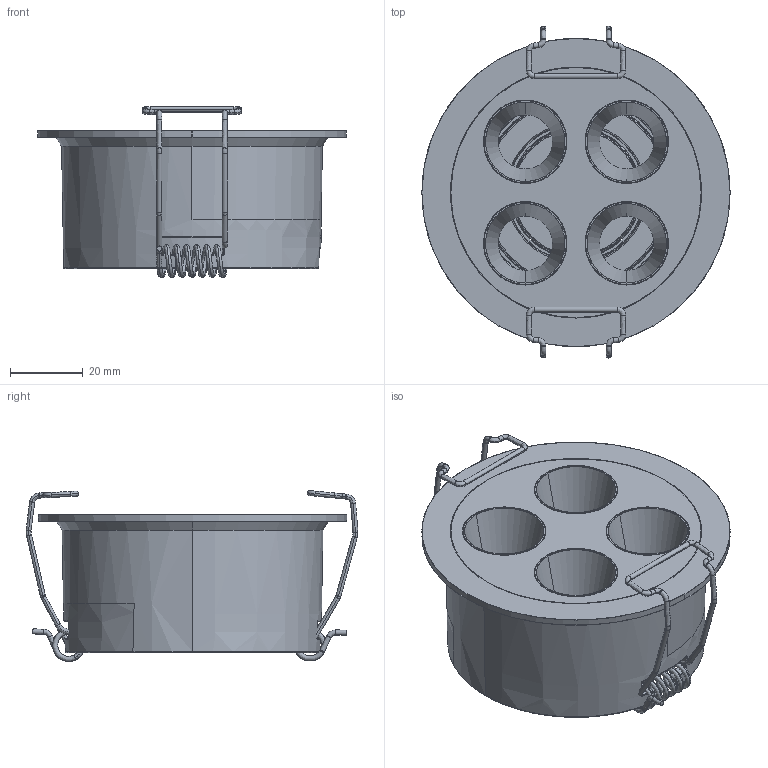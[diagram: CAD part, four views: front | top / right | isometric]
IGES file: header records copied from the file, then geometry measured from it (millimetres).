
Start section: SolidWorks IGES file using analytic representation for surfaces
Global section: file name: C:\Users\extension46\Desktop\3D-WEB\Invisible\Recessed\XD004R-4t-10W.IGS; native system: SolidWorks 2023; preprocessor: SolidWorks 2023; author: y.wang; date: 240627.083456; units: millimetre
Bounding box: 85 x 91.53 x 47.12 mm (x, y, z)
Surface area: 37180.6 mm2 (no closed solid volume)
Topology: 0 solids, 0 shells, 427 faces, 4369 edges, 4338 vertices
Faces by surface type: bspline 239, revolution 188
